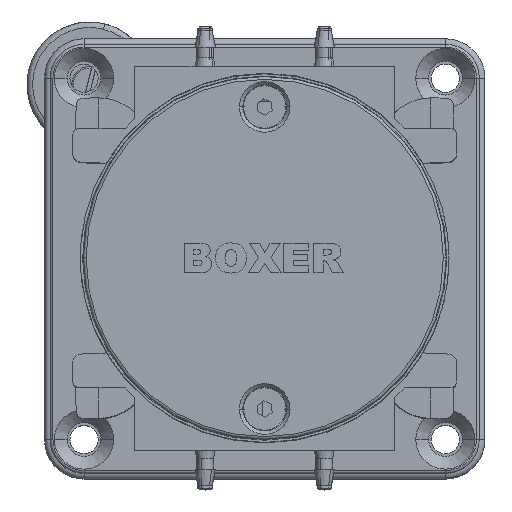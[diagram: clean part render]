
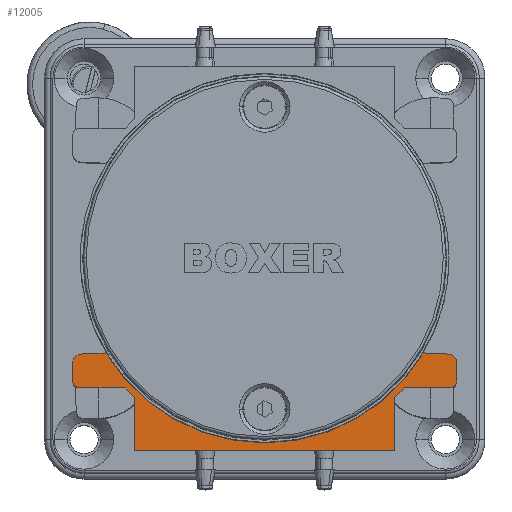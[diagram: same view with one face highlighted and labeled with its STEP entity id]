
A CAD part, top view. The second image highlights one B-rep face of the part: STEP entity #12005.
In plain terms, the highlighted planar face has unit normal (0, 0, 1).
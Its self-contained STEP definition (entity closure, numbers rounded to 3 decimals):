
#1295 = DIRECTION ( 'NONE',  ( -1., 0., 0. ) ) ;
#1534 = VERTEX_POINT ( 'NONE', #58282 ) ;
#1814 = CARTESIAN_POINT ( 'NONE',  ( 32.5, -18.5, 53.5 ) ) ;
#2785 = EDGE_CURVE ( 'NONE', #32265, #9395, #24260, .T. ) ;
#3170 = AXIS2_PLACEMENT_3D ( 'NONE', #11314, #45520, #16236 ) ;
#3336 = CARTESIAN_POINT ( 'NONE',  ( -23., -24.699, 53.5 ) ) ;
#3381 = AXIS2_PLACEMENT_3D ( 'NONE', #16862, #41474, #12171 ) ;
#3386 = DIRECTION ( 'NONE',  ( -1., 0., 0. ) ) ;
#3544 = CARTESIAN_POINT ( 'NONE',  ( 23., -34., 53.5 ) ) ;
#3839 = CARTESIAN_POINT ( 'NONE',  ( -32.568, -17.002, 53.5 ) ) ;
#4115 = DIRECTION ( 'NONE',  ( 0., 0., 1. ) ) ;
#4903 = CIRCLE ( 'NONE', #30747, 1.25 ) ;
#6232 = CARTESIAN_POINT ( 'NONE',  ( -24.699, -23., 53.5 ) ) ;
#6736 = DIRECTION ( 'NONE',  ( -1., 0., 0. ) ) ;
#7084 = CARTESIAN_POINT ( 'NONE',  ( -32.5, -18.5, 53.5 ) ) ;
#7232 = LINE ( 'NONE', #3839, #44709 ) ;
#7418 = VERTEX_POINT ( 'NONE', #33089 ) ;
#7924 = ORIENTED_EDGE ( 'NONE', *, *, #8222, .F. ) ;
#8222 = EDGE_CURVE ( 'NONE', #9395, #15492, #57268, .T. ) ;
#8477 = LINE ( 'NONE', #3544, #60429 ) ;
#8753 = DIRECTION ( 'NONE',  ( 0.999, 0.045, 0. ) ) ;
#9395 = VERTEX_POINT ( 'NONE', #57750 ) ;
#10615 = DIRECTION ( 'NONE',  ( 0., 0., -1. ) ) ;
#11002 = VECTOR ( 'NONE', #32633, 1000. ) ;
#11314 = CARTESIAN_POINT ( 'NONE',  ( 0., 0., 53.5 ) ) ;
#11573 = CARTESIAN_POINT ( 'NONE',  ( 28.099, -16.798, 53.5 ) ) ;
#11622 = CARTESIAN_POINT ( 'NONE',  ( -23., -23.174, 53.5 ) ) ;
#11853 = EDGE_CURVE ( 'NONE', #60694, #24528, #4903, .T. ) ;
#12002 = DIRECTION ( 'NONE',  ( 1., 0., 0. ) ) ;
#12005 = ADVANCED_FACE ( 'NONE', ( #47668 ), #31561, .F. ) ;
#12171 = DIRECTION ( 'NONE',  ( -1., 0., 0. ) ) ;
#13164 = DIRECTION ( 'NONE',  ( 0., 0., -1. ) ) ;
#15108 = AXIS2_PLACEMENT_3D ( 'NONE', #7084, #41310, #12002 ) ;
#15492 = VERTEX_POINT ( 'NONE', #55855 ) ;
#16236 = DIRECTION ( 'NONE',  ( 1., 0., 0. ) ) ;
#16862 = CARTESIAN_POINT ( 'NONE',  ( 32.5, -18.5, 53.5 ) ) ;
#18155 = EDGE_CURVE ( 'NONE', #24528, #19833, #32824, .T. ) ;
#19833 = VERTEX_POINT ( 'NONE', #43774 ) ;
#20821 = EDGE_CURVE ( 'NONE', #1534, #35888, #47904, .T. ) ;
#22033 = VERTEX_POINT ( 'NONE', #62730 ) ;
#22970 = ORIENTED_EDGE ( 'NONE', *, *, #27733, .F. ) ;
#23461 = VECTOR ( 'NONE', #29174, 1000. ) ;
#23716 = CIRCLE ( 'NONE', #3170, 33.75 ) ;
#23902 = CARTESIAN_POINT ( 'NONE',  ( -28.099, -16.798, 53.5 ) ) ;
#24260 = LINE ( 'NONE', #48744, #61717 ) ;
#24354 = VECTOR ( 'NONE', #45805, 1000. ) ;
#24528 = VERTEX_POINT ( 'NONE', #41728 ) ;
#24635 = ORIENTED_EDGE ( 'NONE', *, *, #47759, .F. ) ;
#24986 = LINE ( 'NONE', #28965, #23461 ) ;
#25673 = EDGE_CURVE ( 'NONE', #59067, #48290, #36525, .T. ) ;
#25687 = ORIENTED_EDGE ( 'NONE', *, *, #38194, .F. ) ;
#26064 = EDGE_CURVE ( 'NONE', #55769, #1534, #24986, .T. ) ;
#26469 = VERTEX_POINT ( 'NONE', #3336 ) ;
#27546 = EDGE_CURVE ( 'NONE', #7418, #22033, #59916, .T. ) ;
#27733 = EDGE_CURVE ( 'NONE', #19833, #7418, #60789, .T. ) ;
#27838 = ORIENTED_EDGE ( 'NONE', *, *, #26064, .F. ) ;
#28188 = EDGE_CURVE ( 'NONE', #15492, #51034, #7232, .T. ) ;
#28615 = CARTESIAN_POINT ( 'NONE',  ( -32.75, -23., 53.5 ) ) ;
#28965 = CARTESIAN_POINT ( 'NONE',  ( 32.568, -17.002, 53.5 ) ) ;
#29174 = DIRECTION ( 'NONE',  ( 0.999, -0.045, 0. ) ) ;
#30303 = CARTESIAN_POINT ( 'NONE',  ( 34., -18.5, 53.5 ) ) ;
#30498 = DIRECTION ( 'NONE',  ( 0., 0., -1. ) ) ;
#30747 = AXIS2_PLACEMENT_3D ( 'NONE', #59797, #30498, #1295 ) ;
#31281 = VECTOR ( 'NONE', #3386, 1000. ) ;
#31561 = PLANE ( 'NONE',  #3381 ) ;
#32033 = ORIENTED_EDGE ( 'NONE', *, *, #18155, .F. ) ;
#32265 = VERTEX_POINT ( 'NONE', #32913 ) ;
#32633 = DIRECTION ( 'NONE',  ( 0., -1., 0. ) ) ;
#32774 = DIRECTION ( 'NONE',  ( -1., 0., 0. ) ) ;
#32824 = LINE ( 'NONE', #37594, #31281 ) ;
#32913 = CARTESIAN_POINT ( 'NONE',  ( -34., -21.75, 53.5 ) ) ;
#33089 = CARTESIAN_POINT ( 'NONE',  ( 23., -24.699, 53.5 ) ) ;
#33355 = CARTESIAN_POINT ( 'NONE',  ( 0., 0., 53.5 ) ) ;
#35611 = ORIENTED_EDGE ( 'NONE', *, *, #20821, .F. ) ;
#35725 = CARTESIAN_POINT ( 'NONE',  ( 34., -21.75, 53.5 ) ) ;
#35888 = VERTEX_POINT ( 'NONE', #30303 ) ;
#35935 = EDGE_LOOP ( 'NONE', ( #46020, #62157, #39333, #56734, #22970, #32033, #54565, #51470, #35611, #27838, #25687, #51335, #7924, #47496, #24635, #55286 ) ) ;
#36006 = DIRECTION ( 'NONE',  ( 0., 0., -1. ) ) ;
#36525 = LINE ( 'NONE', #55102, #60958 ) ;
#37594 = CARTESIAN_POINT ( 'NONE',  ( 32.75, -23., 53.5 ) ) ;
#38194 = EDGE_CURVE ( 'NONE', #51034, #55769, #60421, .T. ) ;
#38309 = DIRECTION ( 'NONE',  ( -1., 0., 0. ) ) ;
#39333 = ORIENTED_EDGE ( 'NONE', *, *, #45821, .F. ) ;
#39881 = AXIS2_PLACEMENT_3D ( 'NONE', #39921, #10615, #44821 ) ;
#39921 = CARTESIAN_POINT ( 'NONE',  ( 0., 0., 53.5 ) ) ;
#39988 = AXIS2_PLACEMENT_3D ( 'NONE', #1814, #36006, #6736 ) ;
#40275 = EDGE_CURVE ( 'NONE', #26469, #59067, #23716, .T. ) ;
#41310 = DIRECTION ( 'NONE',  ( 0., 0., -1. ) ) ;
#41474 = DIRECTION ( 'NONE',  ( 0., 0., -1. ) ) ;
#41728 = CARTESIAN_POINT ( 'NONE',  ( 32.75, -23., 53.5 ) ) ;
#42471 = CARTESIAN_POINT ( 'NONE',  ( -32.75, -21.75, 53.5 ) ) ;
#43774 = CARTESIAN_POINT ( 'NONE',  ( 24.699, -23., 53.5 ) ) ;
#44709 = VECTOR ( 'NONE', #8753, 1000. ) ;
#44821 = DIRECTION ( 'NONE',  ( 1., 0., 0. ) ) ;
#45520 = DIRECTION ( 'NONE',  ( 0., 0., -1. ) ) ;
#45805 = DIRECTION ( 'NONE',  ( 0., 1., 0. ) ) ;
#45821 = EDGE_CURVE ( 'NONE', #22033, #56783, #8477, .T. ) ;
#46020 = ORIENTED_EDGE ( 'NONE', *, *, #40275, .F. ) ;
#47352 = DIRECTION ( 'NONE',  ( 1., 0., 0. ) ) ;
#47496 = ORIENTED_EDGE ( 'NONE', *, *, #2785, .F. ) ;
#47554 = VECTOR ( 'NONE', #58832, 1000. ) ;
#47668 = FACE_OUTER_BOUND ( 'NONE', #35935, .T. ) ;
#47759 = EDGE_CURVE ( 'NONE', #48290, #32265, #50911, .T. ) ;
#47904 = CIRCLE ( 'NONE', #39988, 1.5 ) ;
#48290 = VERTEX_POINT ( 'NONE', #28615 ) ;
#48744 = CARTESIAN_POINT ( 'NONE',  ( -34., -18.5, 53.5 ) ) ;
#48965 = AXIS2_PLACEMENT_3D ( 'NONE', #33355, #4115, #38309 ) ;
#49118 = LINE ( 'NONE', #53902, #47554 ) ;
#49497 = CARTESIAN_POINT ( 'NONE',  ( -23., -34., 53.5 ) ) ;
#50150 = EDGE_CURVE ( 'NONE', #35888, #60694, #49118, .T. ) ;
#50240 = DIRECTION ( 'NONE',  ( -1., 0., 0. ) ) ;
#50911 = CIRCLE ( 'NONE', #54360, 1.25 ) ;
#51034 = VERTEX_POINT ( 'NONE', #23902 ) ;
#51335 = ORIENTED_EDGE ( 'NONE', *, *, #28188, .F. ) ;
#51470 = ORIENTED_EDGE ( 'NONE', *, *, #50150, .F. ) ;
#51873 = EDGE_CURVE ( 'NONE', #56783, #26469, #61820, .T. ) ;
#53602 = DIRECTION ( 'NONE',  ( 0., 1., 0. ) ) ;
#53902 = CARTESIAN_POINT ( 'NONE',  ( 34., -18.5, 53.5 ) ) ;
#54360 = AXIS2_PLACEMENT_3D ( 'NONE', #42471, #13164, #47352 ) ;
#54565 = ORIENTED_EDGE ( 'NONE', *, *, #11853, .F. ) ;
#55102 = CARTESIAN_POINT ( 'NONE',  ( -32.75, -23., 53.5 ) ) ;
#55286 = ORIENTED_EDGE ( 'NONE', *, *, #25673, .F. ) ;
#55769 = VERTEX_POINT ( 'NONE', #11573 ) ;
#55855 = CARTESIAN_POINT ( 'NONE',  ( -32.568, -17.002, 53.5 ) ) ;
#56734 = ORIENTED_EDGE ( 'NONE', *, *, #27546, .F. ) ;
#56783 = VERTEX_POINT ( 'NONE', #49497 ) ;
#57268 = CIRCLE ( 'NONE', #15108, 1.5 ) ;
#57750 = CARTESIAN_POINT ( 'NONE',  ( -34., -18.5, 53.5 ) ) ;
#58282 = CARTESIAN_POINT ( 'NONE',  ( 32.568, -17.002, 53.5 ) ) ;
#58832 = DIRECTION ( 'NONE',  ( 0., -1., 0. ) ) ;
#59067 = VERTEX_POINT ( 'NONE', #6232 ) ;
#59797 = CARTESIAN_POINT ( 'NONE',  ( 32.75, -21.75, 53.5 ) ) ;
#59916 = LINE ( 'NONE', #61911, #11002 ) ;
#60421 = CIRCLE ( 'NONE', #48965, 32.737 ) ;
#60429 = VECTOR ( 'NONE', #32774, 1000. ) ;
#60694 = VERTEX_POINT ( 'NONE', #35725 ) ;
#60789 = CIRCLE ( 'NONE', #39881, 33.75 ) ;
#60958 = VECTOR ( 'NONE', #50240, 1000. ) ;
#61717 = VECTOR ( 'NONE', #53602, 1000. ) ;
#61820 = LINE ( 'NONE', #11622, #24354 ) ;
#61911 = CARTESIAN_POINT ( 'NONE',  ( 23., -23.174, 53.5 ) ) ;
#62157 = ORIENTED_EDGE ( 'NONE', *, *, #51873, .F. ) ;
#62730 = CARTESIAN_POINT ( 'NONE',  ( 23., -34., 53.5 ) ) ;
